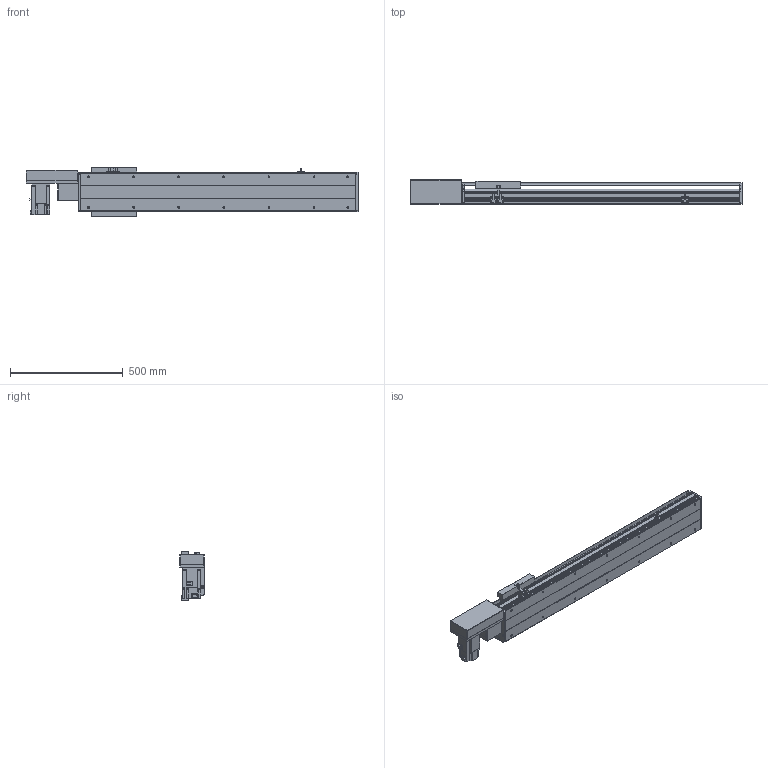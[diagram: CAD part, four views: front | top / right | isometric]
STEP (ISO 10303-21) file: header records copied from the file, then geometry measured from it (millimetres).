
FILE_DESCRIPTION(/* description */ ('STEP AP214'),/* implementation_level */ '2;1');
FILE_NAME(/* name */ 'PBS200-P40-S850-R-T75-C1-N(0)',/* time_stamp */ '2022-06-11T08:04:17+02:00',/* author */ ('License CC BY-ND 4.0'),/* organization */ ('CADENAS'),/* preprocessor_version */ 'ST-DEVELOPER v18.102',/* originating_system */ 'PARTsolutions',/* authorisation */ ' ');
FILE_SCHEMA (('AUTOMOTIVE_DESIGN {1 0 10303 214 3 1 1}'));
Length unit declared in the file: millimetre
Products named in the file (7): PBS200-P40-S850-R-T75-C1-N(0); PBS200_sensor; PBS200_plant; PBS200_sliser; T75-p1; PBS200T-R_motors; PBS200-S850()_body
Assembly tree (8 placements, depth 2):
  PBS200-P40-S850-R-T75-C1-N(0)
    PBS200_sensor  x3
    PBS200_plant
    PBS200_sliser
    T75-p1
    PBS200T-R_motors
    PBS200-S850()_body
Bounding box: 1472 x 109 x 221 mm (x, y, z)
Volume: 10300738.2 mm3; surface area: 1671800.8 mm2
Topology: 8 solids, 8 shells, 914 faces, 2364 edges, 1542 vertices
Faces by surface type: plane 572, cylinder 296, cone 46
Full cylindrical faces by diameter (mm): 2.459 x6, 3.242 x4, 4.5 x6, 4.917 x4, 5 x6, 6 x7, 6.6 x8, 6.647 x18, 8 x6, 10 x4, 12 x8, 38 x2, 40 x1, 70 x1
Entity records: 24461 total; most frequent: DIRECTION 4303, CARTESIAN_POINT 4174, ORIENTED_EDGE 3970, EDGE_CURVE 1985, AXIS2_PLACEMENT_3D 1495, VERTEX_POINT 1366, LINE 1313, VECTOR 1313
